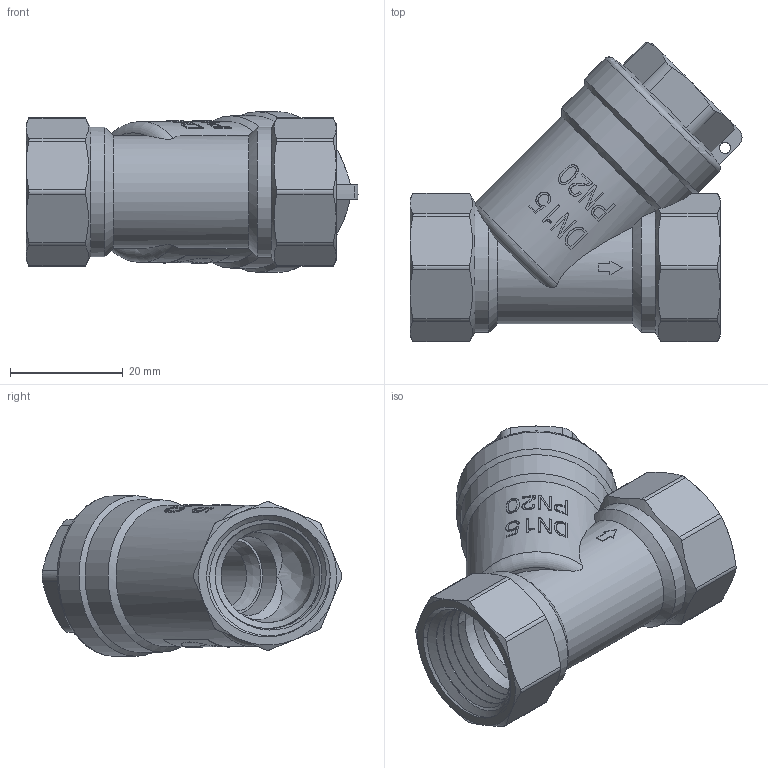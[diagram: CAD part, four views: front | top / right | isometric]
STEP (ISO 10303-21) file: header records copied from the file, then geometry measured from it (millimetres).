
FILE_DESCRIPTION(/* description */ (''),/* implementation_level */ '2;1');
FILE_NAME(/* name */ 'H:\Мишенин_3D\Для каталога DWG\Фильтры\VT.192.N.04.stp',/* time_stamp */ '2019-03-06T08:43:52+03:00',/* author */ ('MisheninAL'),/* organization */ (''),/* preprocessor_version */ 'ST-DEVELOPER v17',/* originating_system */ 'Autodesk Inventor 2019',/* authorisation */ '');
FILE_SCHEMA (('AUTOMOTIVE_DESIGN { 1 0 10303 214 3 1 1 }'));
Length unit declared in the file: millimetre
Products named in the file (1): VT.192.N.04
Bounding box: 58.86 x 53.15 x 28.5 mm (x, y, z)
Volume: 18784 mm3; surface area: 20733.4 mm2
Topology: 1 solids, 2 shells, 363 faces, 1026 edges, 692 vertices
Faces by surface type: plane 140, cylinder 100, bspline 76, cone 43, torus 4
Full cylindrical faces by diameter (mm): 2 x1, 11 x1, 13 x1, 13.5 x2, 14 x1, 15.5 x1, 16 x1, 16.5 x2, 17 x1, 17.5 x1, 18 x1, 18.02 x1, 18.6 x10, 18.82 x1, 19 x1, 22.2 x10, 22.5 x1, 24 x1, 24.5 x1, 27 x1, 28.5 x1
Entity records: 16829 total; most frequent: CARTESIAN_POINT 8161, ORIENTED_EDGE 2052, DIRECTION 1461, EDGE_CURVE 1026, VERTEX_POINT 692, AXIS2_PLACEMENT_3D 550, EDGE_LOOP 402, ADVANCED_FACE 363
